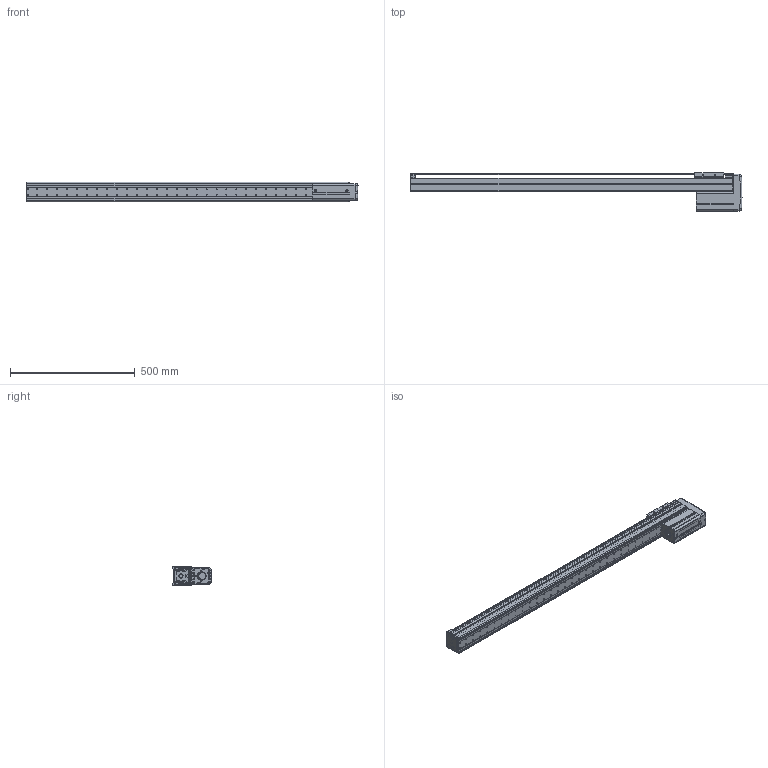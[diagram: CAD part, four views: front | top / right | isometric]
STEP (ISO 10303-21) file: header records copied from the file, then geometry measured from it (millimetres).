
FILE_DESCRIPTION((''),'2;1');
FILE_NAME('BE10E-UU-M_N-B0_IGS_PRT','2017-06-17T',(' '),(''),'PRO/ENGINEER BY PARAMETRIC TECHNOLOGY CORPORATION, 2015030','PRO/ENGINEER BY PARAMETRIC TECHNOLOGY CORPORATION, 2015030','');
FILE_SCHEMA(('CONFIG_CONTROL_DESIGN'));
Length unit declared in the file: millimetre
Products named in the file (1): BE10E-UU-M_N-B0_IGS_PRT
Bounding box: 1331.42 x 153 x 78 mm (x, y, z)
Volume: 1776732.1 mm3; surface area: 1194698.7 mm2
Topology: 2 solids, 141 shells, 1925 faces, 5222 edges, 3408 vertices
Faces by surface type: cylinder 961, plane 736, cone 81, torus 69, sphere 44, bspline 34
Entity records: 63415 total; most frequent: CARTESIAN_POINT 13629, DIRECTION 10788, ORIENTED_EDGE 9826, EDGE_CURVE 5182, AXIS2_PLACEMENT_3D 4064, VERTEX_POINT 3408, VECTOR 2660, LINE 2660
